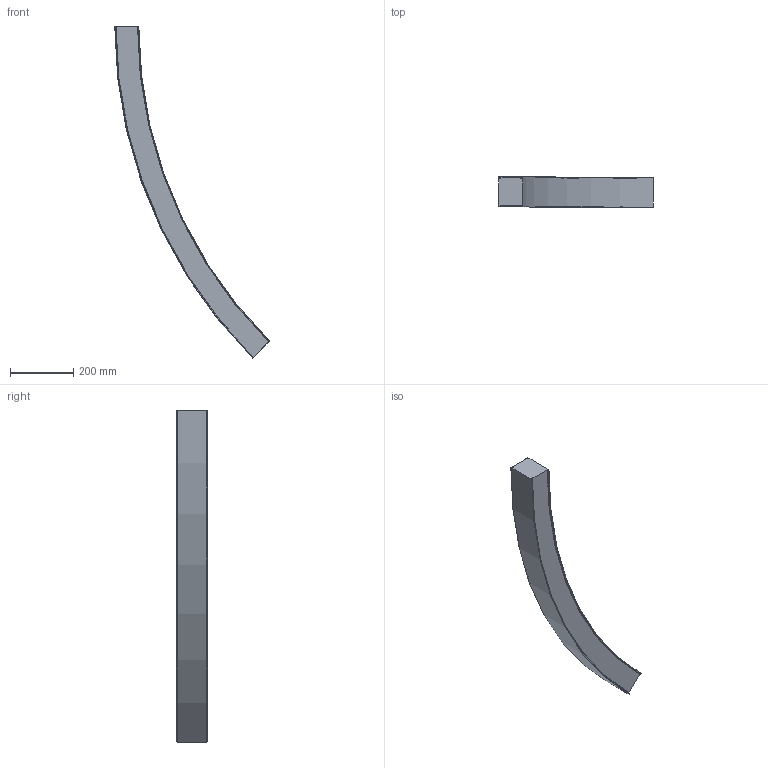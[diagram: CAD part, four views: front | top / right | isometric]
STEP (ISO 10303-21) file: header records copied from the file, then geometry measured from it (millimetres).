
FILE_DESCRIPTION (( 'STEP AP214' ), '1' );
FILE_NAME ('Swerve SM R1450 45Deg.STEP', '2019-05-29T02:52:53', ( 'admin' ), ( 'Hewlett-Packard Company' ), 'SwSTEP 2.0', 'SolidWorks 2017', '' );
FILE_SCHEMA (( 'AUTOMOTIVE_DESIGN' ));
Length unit declared in the file: millimetre
Products named in the file (1): Swerve SM R1450 45Deg
Bounding box: 489.74 x 95.1 x 1052.25 mm (x, y, z)
Volume: 7701351.8 mm3; surface area: 434401.8 mm2
Topology: 1 solids, 1 shells, 46 faces, 132 edges, 88 vertices
Faces by surface type: torus 24, plane 10, cone 8, cylinder 4
Entity records: 1602 total; most frequent: DIRECTION 318, CARTESIAN_POINT 267, ORIENTED_EDGE 264, AXIS2_PLACEMENT_3D 139, EDGE_CURVE 132, CIRCLE 92, VERTEX_POINT 88, ADVANCED_FACE 46
